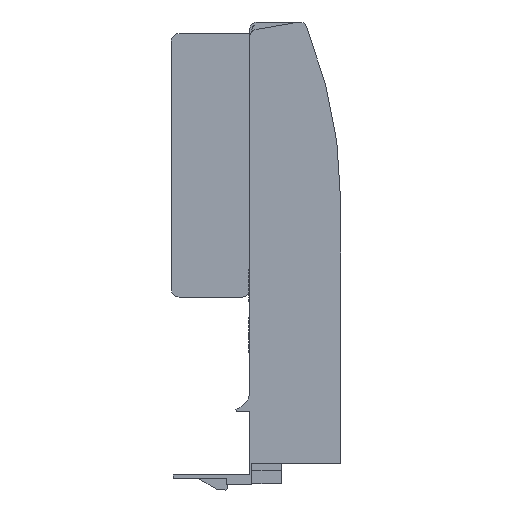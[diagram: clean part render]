
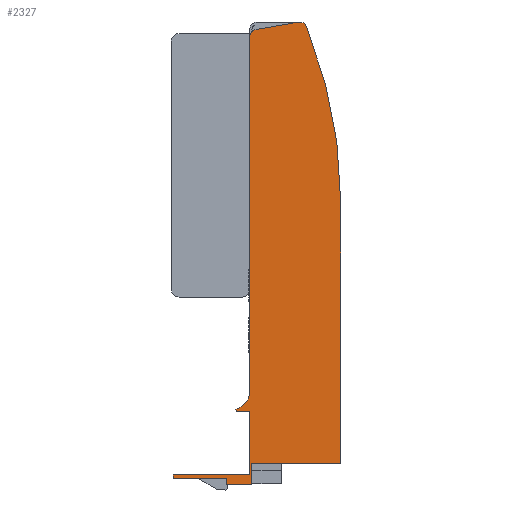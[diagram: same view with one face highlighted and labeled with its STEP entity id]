
A CAD part, front view. The second image highlights one B-rep face of the part: STEP entity #2327.
In plain terms, the highlighted planar face has unit normal (0, -1, 0).
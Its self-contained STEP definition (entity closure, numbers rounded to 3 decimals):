
#11 = LINE ( 'NONE', #1899, #142 ) ;
#21 = VECTOR ( 'NONE', #1822, 1000. ) ;
#48 = VECTOR ( 'NONE', #1873, 1000. ) ;
#49 = LINE ( 'NONE', #1872, #48 ) ;
#58 = VECTOR ( 'NONE', #1962, 1000. ) ;
#65 = FACE_OUTER_BOUND ( 'NONE', #1061, .T. ) ;
#69 = LINE ( 'NONE', #1961, #58 ) ;
#85 = LINE ( 'NONE', #1849, #191 ) ;
#120 = LINE ( 'NONE', #1770, #127 ) ;
#127 = VECTOR ( 'NONE', #1782, 1000. ) ;
#142 = VECTOR ( 'NONE', #1900, 1000. ) ;
#145 = CIRCLE ( 'NONE', #1525, 120.6 ) ;
#166 = LINE ( 'NONE', #1817, #298 ) ;
#187 = CIRCLE ( 'NONE', #1607, 5. ) ;
#191 = VECTOR ( 'NONE', #1850, 1000. ) ;
#198 = CIRCLE ( 'NONE', #1608, 2. ) ;
#239 = LINE ( 'NONE', #1821, #21 ) ;
#276 = VECTOR ( 'NONE', #2025, 1000. ) ;
#298 = VECTOR ( 'NONE', #1818, 1000. ) ;
#302 = LINE ( 'NONE', #2024, #276 ) ;
#329 = CARTESIAN_POINT ( 'NONE',  ( -8.75, 0., 61.5 ) ) ;
#331 = PLANE ( 'NONE',  #1570 ) ;
#428 = CARTESIAN_POINT ( 'NONE',  ( -27.599, 0., -19.1 ) ) ;
#447 = EDGE_CURVE ( 'NONE', #804, #835, #900, .T. ) ;
#455 = EDGE_CURVE ( 'NONE', #845, #782, #938, .T. ) ;
#485 = EDGE_CURVE ( 'NONE', #777, #668, #965, .T. ) ;
#491 = EDGE_CURVE ( 'NONE', #746, #804, #968, .T. ) ;
#513 = EDGE_CURVE ( 'NONE', #803, #845, #652, .T. ) ;
#525 = EDGE_CURVE ( 'NONE', #805, #744, #120, .T. ) ;
#527 = EDGE_CURVE ( 'NONE', #782, #774, #1179, .T. ) ;
#533 = EDGE_CURVE ( 'NONE', #721, #735, #198, .T. ) ;
#542 = EDGE_CURVE ( 'NONE', #735, #790, #166, .T. ) ;
#544 = EDGE_CURVE ( 'NONE', #774, #761, #239, .T. ) ;
#556 = EDGE_CURVE ( 'NONE', #780, #805, #85, .T. ) ;
#560 = EDGE_CURVE ( 'NONE', #759, #777, #145, .T. ) ;
#566 = EDGE_CURVE ( 'NONE', #744, #746, #49, .T. ) ;
#577 = EDGE_CURVE ( 'NONE', #790, #780, #187, .T. ) ;
#578 = EDGE_CURVE ( 'NONE', #668, #721, #11, .T. ) ;
#604 = EDGE_CURVE ( 'NONE', #835, #803, #69, .T. ) ;
#634 = EDGE_CURVE ( 'NONE', #761, #759, #302, .T. ) ;
#650 = VECTOR ( 'NONE', #1754, 1000. ) ;
#652 = LINE ( 'NONE', #1753, #650 ) ;
#667 = CARTESIAN_POINT ( 'NONE',  ( -27.599, 0., -19.1 ) ) ;
#668 = VERTEX_POINT ( 'NONE', #2023 ) ;
#701 = CARTESIAN_POINT ( 'NONE',  ( -41.499, 0., -16.5 ) ) ;
#721 = VERTEX_POINT ( 'NONE', #2032 ) ;
#735 = VERTEX_POINT ( 'NONE', #2046 ) ;
#737 = DIRECTION ( 'NONE',  ( 1., 0., 0. ) ) ;
#739 = DIRECTION ( 'NONE',  ( 0., 0., -1. ) ) ;
#744 = VERTEX_POINT ( 'NONE', #2052 ) ;
#746 = VERTEX_POINT ( 'NONE', #2054 ) ;
#759 = VERTEX_POINT ( 'NONE', #2067 ) ;
#761 = VERTEX_POINT ( 'NONE', #2069 ) ;
#774 = VERTEX_POINT ( 'NONE', #2082 ) ;
#777 = VERTEX_POINT ( 'NONE', #2085 ) ;
#780 = VERTEX_POINT ( 'NONE', #2088 ) ;
#782 = VERTEX_POINT ( 'NONE', #2090 ) ;
#790 = VERTEX_POINT ( 'NONE', #2098 ) ;
#803 = VERTEX_POINT ( 'NONE', #2111 ) ;
#804 = VERTEX_POINT ( 'NONE', #2112 ) ;
#805 = VERTEX_POINT ( 'NONE', #2113 ) ;
#835 = VERTEX_POINT ( 'NONE', #1210 ) ;
#845 = VERTEX_POINT ( 'NONE', #428 ) ;
#886 = VECTOR ( 'NONE', #1786, 1000. ) ;
#900 = LINE ( 'NONE', #701, #1125 ) ;
#938 = LINE ( 'NONE', #667, #1096 ) ;
#965 = CIRCLE ( 'NONE', #1552, 2. ) ;
#968 = LINE ( 'NONE', #1704, #1021 ) ;
#1021 = VECTOR ( 'NONE', #1705, 1000. ) ;
#1061 = EDGE_LOOP ( 'NONE', ( #1413, #1274, #1430, #1381, #1422, #1294, #1470, #1469, #1435, #1447, #1440, #1282, #1218, #1383, #1464, #1397, #1369 ) ) ;
#1096 = VECTOR ( 'NONE', #737, 1000. ) ;
#1125 = VECTOR ( 'NONE', #739, 1000. ) ;
#1179 = LINE ( 'NONE', #1781, #886 ) ;
#1210 = CARTESIAN_POINT ( 'NONE',  ( -41.499, 0., -17.528 ) ) ;
#1218 = ORIENTED_EDGE ( 'NONE', *, *, #634, .T. ) ;
#1274 = ORIENTED_EDGE ( 'NONE', *, *, #577, .T. ) ;
#1282 = ORIENTED_EDGE ( 'NONE', *, *, #544, .T. ) ;
#1294 = ORIENTED_EDGE ( 'NONE', *, *, #491, .T. ) ;
#1369 = ORIENTED_EDGE ( 'NONE', *, *, #533, .T. ) ;
#1381 = ORIENTED_EDGE ( 'NONE', *, *, #525, .T. ) ;
#1383 = ORIENTED_EDGE ( 'NONE', *, *, #560, .T. ) ;
#1397 = ORIENTED_EDGE ( 'NONE', *, *, #578, .T. ) ;
#1413 = ORIENTED_EDGE ( 'NONE', *, *, #542, .T. ) ;
#1422 = ORIENTED_EDGE ( 'NONE', *, *, #566, .T. ) ;
#1430 = ORIENTED_EDGE ( 'NONE', *, *, #556, .T. ) ;
#1435 = ORIENTED_EDGE ( 'NONE', *, *, #513, .T. ) ;
#1440 = ORIENTED_EDGE ( 'NONE', *, *, #527, .T. ) ;
#1447 = ORIENTED_EDGE ( 'NONE', *, *, #455, .T. ) ;
#1464 = ORIENTED_EDGE ( 'NONE', *, *, #485, .T. ) ;
#1469 = ORIENTED_EDGE ( 'NONE', *, *, #604, .T. ) ;
#1470 = ORIENTED_EDGE ( 'NONE', *, *, #447, .T. ) ;
#1525 = AXIS2_PLACEMENT_3D ( 'NONE', #1851, #1860, #1861 ) ;
#1552 = AXIS2_PLACEMENT_3D ( 'NONE', #1689, #1690, #1691 ) ;
#1570 = AXIS2_PLACEMENT_3D ( 'NONE', #329, #2142, #2143 ) ;
#1607 = AXIS2_PLACEMENT_3D ( 'NONE', #1883, #1897, #1898 ) ;
#1608 = AXIS2_PLACEMENT_3D ( 'NONE', #1796, #1798, #1799 ) ;
#1689 = CARTESIAN_POINT ( 'NONE',  ( -8.5, 0., 100. ) ) ;
#1690 = DIRECTION ( 'NONE',  ( 0., -1., 0. ) ) ;
#1691 = DIRECTION ( 'NONE',  ( 1., 0., 0. ) ) ;
#1704 = CARTESIAN_POINT ( 'NONE',  ( -21.5, 0., -16.5 ) ) ;
#1705 = DIRECTION ( 'NONE',  ( -1., 0., 0. ) ) ;
#1753 = CARTESIAN_POINT ( 'NONE',  ( -27.599, 0., -17.528 ) ) ;
#1754 = DIRECTION ( 'NONE',  ( 0., 0., -1. ) ) ;
#1770 = CARTESIAN_POINT ( 'NONE',  ( -25., 0., 0. ) ) ;
#1781 = CARTESIAN_POINT ( 'NONE',  ( -20.9, 0., -19.1 ) ) ;
#1782 = DIRECTION ( 'NONE',  ( 1., 0., 0. ) ) ;
#1786 = DIRECTION ( 'NONE',  ( 0., 0., 1. ) ) ;
#1796 = CARTESIAN_POINT ( 'NONE',  ( -19.5, 0., 98.06 ) ) ;
#1798 = DIRECTION ( 'NONE',  ( 0., -1., 0. ) ) ;
#1799 = DIRECTION ( 'NONE',  ( 1., 0., 0. ) ) ;
#1817 = CARTESIAN_POINT ( 'NONE',  ( -21.5, 0., 98.06 ) ) ;
#1818 = DIRECTION ( 'NONE',  ( 0., 0., -1. ) ) ;
#1821 = CARTESIAN_POINT ( 'NONE',  ( 2.3, 0., -13.5 ) ) ;
#1822 = DIRECTION ( 'NONE',  ( 1., 0., 0. ) ) ;
#1849 = CARTESIAN_POINT ( 'NONE',  ( -25.161, 0., 0.578 ) ) ;
#1850 = DIRECTION ( 'NONE',  ( 0.268, 0., -0.963 ) ) ;
#1851 = CARTESIAN_POINT ( 'NONE',  ( -118.3, 0., 55.168 ) ) ;
#1860 = DIRECTION ( 'NONE',  ( 0., -1., 0. ) ) ;
#1861 = DIRECTION ( 'NONE',  ( 1., 0., 0. ) ) ;
#1872 = CARTESIAN_POINT ( 'NONE',  ( -21.5, 0., 0. ) ) ;
#1873 = DIRECTION ( 'NONE',  ( 0., 0., -1. ) ) ;
#1883 = CARTESIAN_POINT ( 'NONE',  ( -26.5, 0., 5.395 ) ) ;
#1897 = DIRECTION ( 'NONE',  ( 0., 1., 0. ) ) ;
#1898 = DIRECTION ( 'NONE',  ( 1., 0., 0. ) ) ;
#1899 = CARTESIAN_POINT ( 'NONE',  ( -8.847, 0., 101.97 ) ) ;
#1900 = DIRECTION ( 'NONE',  ( -0.985, 0., -0.174 ) ) ;
#1961 = CARTESIAN_POINT ( 'NONE',  ( -41.499, 0., -17.528 ) ) ;
#1962 = DIRECTION ( 'NONE',  ( 1., 0., 0. ) ) ;
#2023 = CARTESIAN_POINT ( 'NONE',  ( -8.847, 0., 101.97 ) ) ;
#2024 = CARTESIAN_POINT ( 'NONE',  ( 2.3, 0., -13.5 ) ) ;
#2025 = DIRECTION ( 'NONE',  ( 0., 0., 1. ) ) ;
#2032 = CARTESIAN_POINT ( 'NONE',  ( -19.847, 0., 100.03 ) ) ;
#2046 = CARTESIAN_POINT ( 'NONE',  ( -21.5, 0., 98.06 ) ) ;
#2052 = CARTESIAN_POINT ( 'NONE',  ( -21.5, 0., 0. ) ) ;
#2054 = CARTESIAN_POINT ( 'NONE',  ( -21.5, 0., -16.5 ) ) ;
#2067 = CARTESIAN_POINT ( 'NONE',  ( 2.3, 0., 55.168 ) ) ;
#2069 = CARTESIAN_POINT ( 'NONE',  ( 2.3, 0., -13.5 ) ) ;
#2082 = CARTESIAN_POINT ( 'NONE',  ( -20.9, 0., -13.5 ) ) ;
#2085 = CARTESIAN_POINT ( 'NONE',  ( -6.648, 0., 100.756 ) ) ;
#2088 = CARTESIAN_POINT ( 'NONE',  ( -25.161, 0., 0.578 ) ) ;
#2090 = CARTESIAN_POINT ( 'NONE',  ( -20.9, 0., -19.1 ) ) ;
#2098 = CARTESIAN_POINT ( 'NONE',  ( -21.5, 0., 5.395 ) ) ;
#2111 = CARTESIAN_POINT ( 'NONE',  ( -27.599, 0., -17.528 ) ) ;
#2112 = CARTESIAN_POINT ( 'NONE',  ( -41.499, 0., -16.5 ) ) ;
#2113 = CARTESIAN_POINT ( 'NONE',  ( -25., 0., 0. ) ) ;
#2142 = DIRECTION ( 'NONE',  ( 0., 1., 0. ) ) ;
#2143 = DIRECTION ( 'NONE',  ( 0., 0., 1. ) ) ;
#2327 = ADVANCED_FACE ( 'NONE', ( #65 ), #331, .F. ) ;
